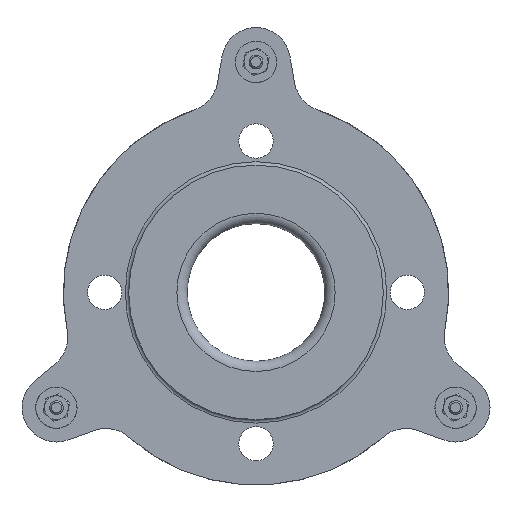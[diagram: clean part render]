
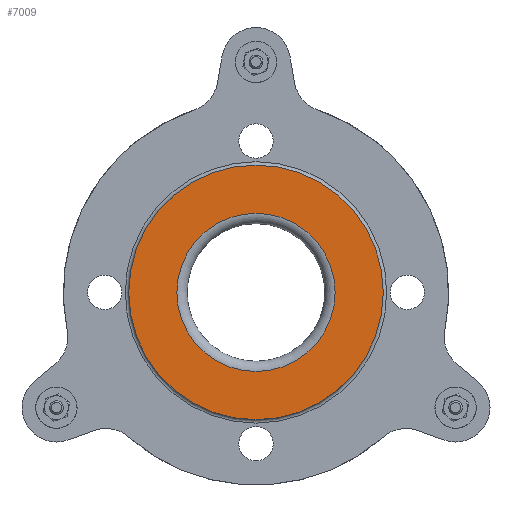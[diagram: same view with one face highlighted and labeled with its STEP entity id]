
A CAD part, front view. The second image highlights one B-rep face of the part: STEP entity #7009.
In plain terms, the highlighted planar face has unit normal (0, -1, 0).
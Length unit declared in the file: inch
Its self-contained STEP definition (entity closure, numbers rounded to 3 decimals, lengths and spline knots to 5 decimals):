
#832=PLANE('',#7794);
#1372=FACE_BOUND('',#2360,.T.);
#1722=FACE_OUTER_BOUND('',#2359,.T.);
#2359=EDGE_LOOP('',(#5744));
#2360=EDGE_LOOP('',(#5745));
#2923=CIRCLE('',#7793,2.3125);
#2924=CIRCLE('',#7795,1.4375);
#3460=VERTEX_POINT('',#11967);
#3461=VERTEX_POINT('',#11970);
#4257=EDGE_CURVE('',#3460,#3460,#2923,.T.);
#4258=EDGE_CURVE('',#3461,#3461,#2924,.T.);
#5744=ORIENTED_EDGE('',*,*,#4257,.T.);
#5745=ORIENTED_EDGE('',*,*,#4258,.F.);
#7009=ADVANCED_FACE('',(#1722,#1372),#832,.T.);
#7793=AXIS2_PLACEMENT_3D('',#11968,#9398,#9399);
#7794=AXIS2_PLACEMENT_3D('',#11969,#9400,#9401);
#7795=AXIS2_PLACEMENT_3D('',#11971,#9402,#9403);
#9398=DIRECTION('center_axis',(0.,-1.,0.));
#9399=DIRECTION('ref_axis',(-1.,0.,0.));
#9400=DIRECTION('center_axis',(0.,-1.,0.));
#9401=DIRECTION('ref_axis',(-1.,0.,0.));
#9402=DIRECTION('center_axis',(0.,-1.,0.));
#9403=DIRECTION('ref_axis',(-1.,0.,0.));
#11967=CARTESIAN_POINT('',(0.20404,-3.125,-2.3125));
#11968=CARTESIAN_POINT('Origin',(0.20404,-3.125,0.));
#11969=CARTESIAN_POINT('Origin',(0.20404,-3.125,-1.4375));
#11970=CARTESIAN_POINT('',(0.20404,-3.125,-1.4375));
#11971=CARTESIAN_POINT('Origin',(0.20404,-3.125,0.));
